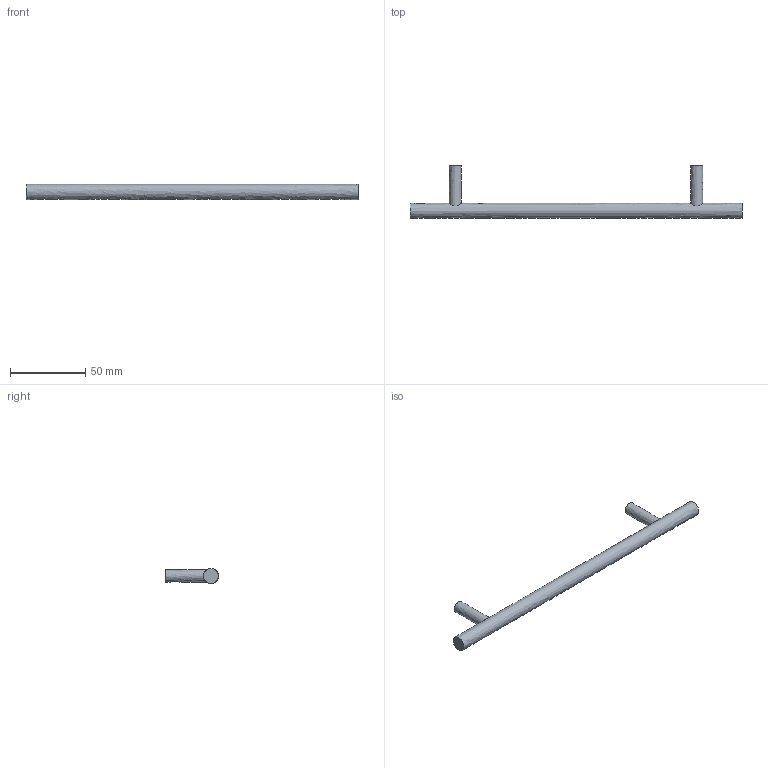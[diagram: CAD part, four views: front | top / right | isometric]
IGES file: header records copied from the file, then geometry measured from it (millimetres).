
Start section: Data from Parasolid IGES Translator 15.0.47, Copyright(c) 2006 Siemens P LM Software. All Rights Reserved.
Global section: file name: 9070978.igs; native system:  By UGS Corp.; preprocessor: XPlus GENERIC/IGES 3.0; author: Noname; organization: Noname; date: 20140122.181221; units: millimetre
Bounding box: 220 x 35 x 10 mm (x, y, z)
Surface area: 8662.9 mm2 (no closed solid volume)
Topology: 0 solids, 0 shells, 11 faces, 30 edges, 22 vertices
Faces by surface type: extrusion 6, revolution 5
